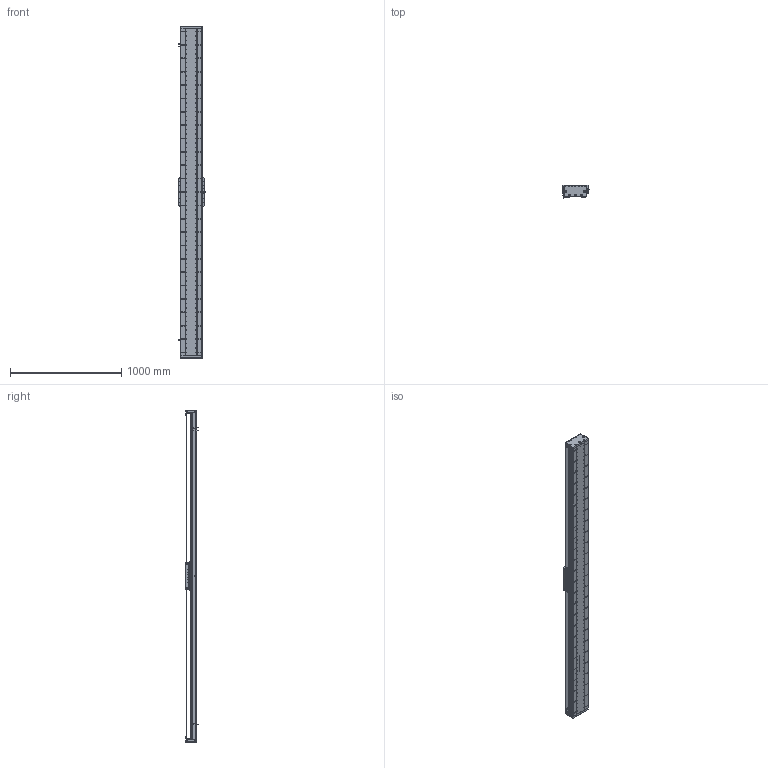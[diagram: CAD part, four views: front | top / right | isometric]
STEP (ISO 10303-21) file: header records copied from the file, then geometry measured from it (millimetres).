
FILE_DESCRIPTION (( 'STEP AP203' ), '1' );
FILE_NAME ('DA-C195-C3-T2640-C010-0.2 眻盄萇儂.STEP', '2025-08-15T01:30:38', ( '' ), ( '' ), 'SwSTEP 2.0', 'SolidWorks 2019', '' );
FILE_SCHEMA (( 'CONFIG_CONTROL_DESIGN' ));
Length unit declared in the file: millimetre
Products named in the file (15): DA165-GYP-00 光电感应片(默认); DA95-HXJ-00 遣喳砎蝶; DA195詩湍菜輸; DA-C195-GD-DB-H-00 傷啣; LMT黍杅芛; PM-T45ㄗ侂狟ㄘ; DA195詩湍嶺輸; CU195-C3賑輸-俋楷; IU-CU195-L 菁釱絳寢; IU-CU195-L-00 菁釱(L2940); DA195詩湍裔啣; DA-C195-C3-T2640-C010-0.2 眻盄萇儂; 葩璃 DA95-GT-T-00; DA195詩湍郪璃; MS200 棠掑喜S315-T240
Assembly tree (29 placements, depth 3):
  DA-C195-C3-T2640-C010-0.2 眻盄萇儂
    DA195詩湍郪璃
      DA195詩湍菜輸  x2
      DA195詩湍裔啣
      DA195詩湍嶺輸  x2
      DA95-HXJ-00 遣喳砎蝶  x8
      DA-C195-GD-DB-H-00 傷啣  x2
    IU-CU195-L 菁釱絳寢
      IU-CU195-L-00 菁釱(L2940)
      葩璃 DA95-GT-T-00  x4
    LMT黍杅芛
    MS200 棠掑喜S315-T240
    PM-T45ㄗ侂狟ㄘ  x3
    DA165-GYP-00 光电感应片(默认)
    CU195-C3賑輸-俋楷
Bounding box: 248 x 115.45 x 2980 mm (x, y, z)
Volume: 17238907.9 mm3; surface area: 5089238.5 mm2
Topology: 86 solids, 118 shells, 4486 faces, 12783 edges, 8081 vertices
Faces by surface type: cylinder 2514, plane 1370, cone 514, torus 52, sphere 36
Entity records: 147523 total; most frequent: CARTESIAN_POINT 40968, ORIENTED_EDGE 22482, DIRECTION 21326, EDGE_CURVE 11241, AXIS2_PLACEMENT_3D 8017, VERTEX_POINT 7283, LINE 5292, VECTOR 5292
